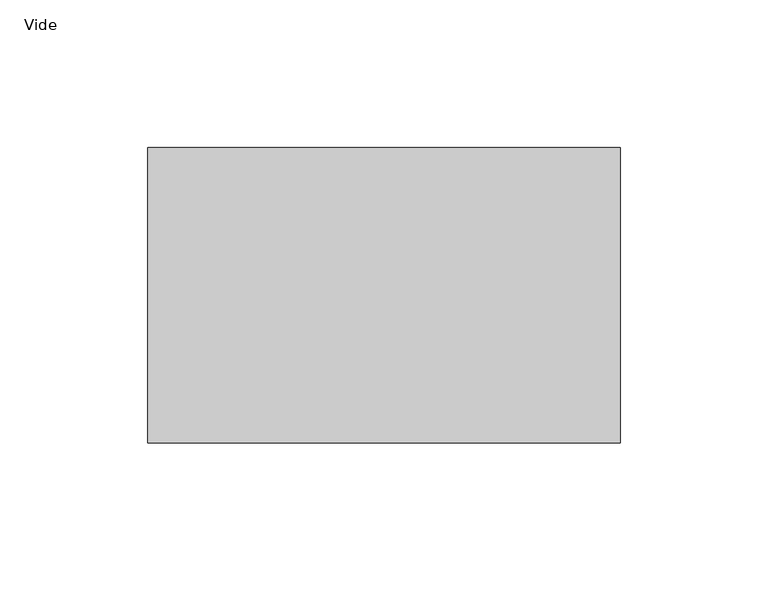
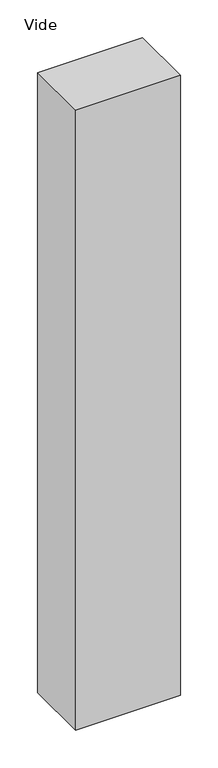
"""IFC4 building model written with IfcOpenShell, lengths in millimetres: plate geometry, Panneau système vide : Vide."""

from ifc_helpers import new_model, si_unit, origin, origin_with_axes, place, context, project, spatial, polyline, outline, extrude, source, transform, mapped, element, save


def vide_6ecf3f0e(model_context):
    return source(origin(), model_context, "Body", "SweptSolid", [
        extrude(outline(polyline([(79.9999998, 50.0), (-79.9999998, 50.0), (-79.9999998, 150.0), (79.9999998, 150.0), (79.9999998, 50.0)])), origin_with_axes(), (0.0, 0.0, 1.0), 1000.0),
    ])


if __name__ == "__main__":
    model = new_model("IFC4")
    model_context = context("Model", 3, world=origin())
    ifc_project = project(units=[si_unit("LENGTHUNIT", "METRE", prefix="MILLI")], contexts=[model_context])
    site = spatial("IfcSite", under=ifc_project)
    building = spatial("IfcBuilding", under=site)
    placement = place(None, origin())
    vide_shape = vide_6ecf3f0e(model_context)
    element("IfcPlate", 1, ObjectType="Panneau système vide : Vide", at=placement, inside=building, context=model_context, shape_type="MappedRepresentation", body=[
        mapped(vide_shape, transform((0.0, 0.0, 0.0), x_axis=(1.0, 0.0, 0.0), y_axis=(0.0, 1.0, 0.0), z_axis=(0.0, 0.0, 1.0))),
    ])
    save(model, "model.ifc")
